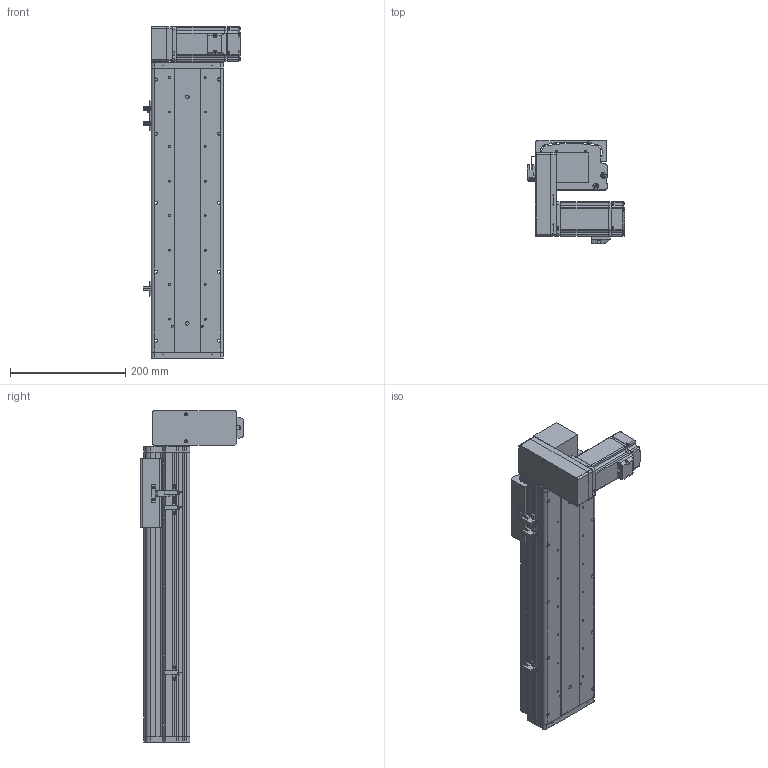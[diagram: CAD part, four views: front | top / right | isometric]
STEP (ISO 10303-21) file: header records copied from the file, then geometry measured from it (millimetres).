
FILE_DESCRIPTION (( 'STEP AP214' ), '1' );
FILE_NAME ('KSD125B-S300-MRD-CM.STEP', '2017-10-21T05:59:45', ( '微软用户' ), ( '微软中国' ), 'SwSTEP 2.0', 'SolidWorks 2014', '' );
FILE_SCHEMA (( 'AUTOMOTIVE_DESIGN' ));
Length unit declared in the file: millimetre
Products named in the file (18): KSD125模组同步带-防撞垫1; 100宽马达安装板同步带右; 前端板-125宽模组同步带; 125模组同步带-尾端板1; KSD125模组同步带-滑动座1; KSD125B-S300-MRD-CM; MHMD042G1CA_2_03; 肣翐M4X25樓6; 悵誘欶奻狟殏; HTPA30S3M150_A_H6_a萇儂蚚; HTPA30S3M150_A_H6_a佪裝蚚; 100宽马达安装板连板上下折丝杆同步带; KSD125模组300行程同步带-防尘盖; 125模组300行程同步带-底板; KSD125模组同步带-防撞垫2; 覜茼え68遵圉猾敕; U倰嫖萇假蚾璃; U倰嫖萇EEㄜSX672
Assembly tree (22 placements, depth 2):
  KSD125B-S300-MRD-CM
    KSD125模组同步带-滑动座1
    125模组同步带-尾端板1
    前端板-125宽模组同步带
    100宽马达安装板同步带右
    KSD125模组同步带-防撞垫1
    U倰嫖萇EEㄜSX672  x3
    U倰嫖萇假蚾璃  x3
    覜茼え68遵圉猾敕
    KSD125模组同步带-防撞垫2
    125模组300行程同步带-底板
    KSD125模组300行程同步带-防尘盖
    100宽马达安装板连板上下折丝杆同步带
    HTPA30S3M150_A_H6_a佪裝蚚
    HTPA30S3M150_A_H6_a萇儂蚚
    悵誘欶奻狟殏
    肣翐M4X25樓6  x2
    MHMD042G1CA_2_03
Bounding box: 168.7 x 179.5 x 577 mm (x, y, z)
Volume: 2058279 mm3; surface area: 734088.1 mm2
Topology: 21 solids, 24 shells, 2247 faces, 6483 edges, 4280 vertices
Faces by surface type: cylinder 1380, plane 736, cone 109, bspline 22
Entity records: 78899 total; most frequent: CARTESIAN_POINT 15595, DIRECTION 12274, ORIENTED_EDGE 11414, EDGE_CURVE 5785, AXIS2_PLACEMENT_3D 4726, VERTEX_POINT 3851, VECTOR 2822, LINE 2822
